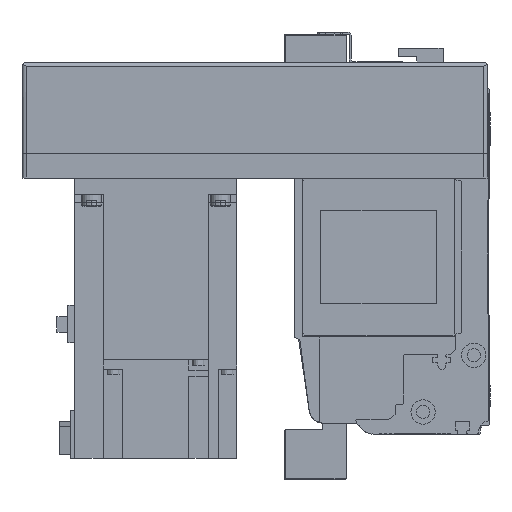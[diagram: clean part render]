
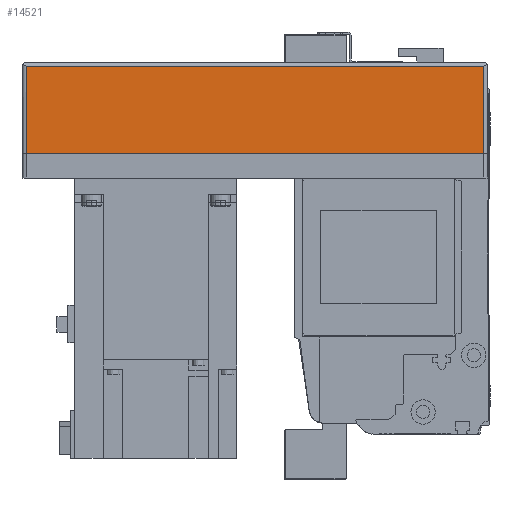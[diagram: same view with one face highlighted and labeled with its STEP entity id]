
A CAD part, left-side view. The second image highlights one B-rep face of the part: STEP entity #14521.
In plain terms, the highlighted planar face has unit normal (-1, 0, 0) as drawn and (0, 1, 0) by its records, which use the part's own axes.
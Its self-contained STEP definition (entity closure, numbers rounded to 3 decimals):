
#2612=ORIENTED_EDGE('',*,*,#6000,.F.);
#2613=ORIENTED_EDGE('',*,*,#5940,.T.);
#2614=ORIENTED_EDGE('',*,*,#6001,.F.);
#2615=ORIENTED_EDGE('',*,*,#5935,.F.);
#5935=EDGE_CURVE('',#7778,#7779,#9296,.T.);
#5940=EDGE_CURVE('',#7784,#7783,#9298,.T.);
#6000=EDGE_CURVE('',#7784,#7778,#9341,.T.);
#6001=EDGE_CURVE('',#7779,#7783,#9342,.T.);
#7778=VERTEX_POINT('',#22816);
#7779=VERTEX_POINT('',#22818);
#7783=VERTEX_POINT('',#22827);
#7784=VERTEX_POINT('',#22829);
#9296=LINE('',#22817,#10609);
#9298=LINE('',#22828,#10611);
#9341=LINE('',#22951,#10654);
#9342=LINE('',#22952,#10655);
#10609=VECTOR('',#18189,1000.);
#10611=VECTOR('',#18199,1000.);
#10654=VECTOR('',#18320,1000.);
#10655=VECTOR('',#18321,1000.);
#11762=EDGE_LOOP('',(#2612,#2613,#2614,#2615));
#12921=FACE_BOUND('',#11762,.T.);
#13912=PLANE('',#15620);
#14521=ADVANCED_FACE('',(#12921),#13912,.T.);
#15620=AXIS2_PLACEMENT_3D('',#22950,#18318,#18319);
#18189=DIRECTION('',(0.,0.,1.));
#18199=DIRECTION('',(0.,0.,1.));
#18318=DIRECTION('',(0.,1.,0.));
#18319=DIRECTION('',(0.,0.,1.));
#18320=DIRECTION('',(1.,0.,0.));
#18321=DIRECTION('',(-1.,0.,0.));
#22816=CARTESIAN_POINT('',(-2.,54.,-55.));
#22817=CARTESIAN_POINT('',(-2.,54.,-57.));
#22818=CARTESIAN_POINT('',(-2.,54.,-12.));
#22827=CARTESIAN_POINT('',(-228.,54.,-12.));
#22828=CARTESIAN_POINT('',(-228.,54.,-57.));
#22829=CARTESIAN_POINT('',(-228.,54.,-55.));
#22950=CARTESIAN_POINT('',(-2.,54.,-57.));
#22951=CARTESIAN_POINT('',(-230.,54.,-55.));
#22952=CARTESIAN_POINT('',(-2.,54.,-12.));
